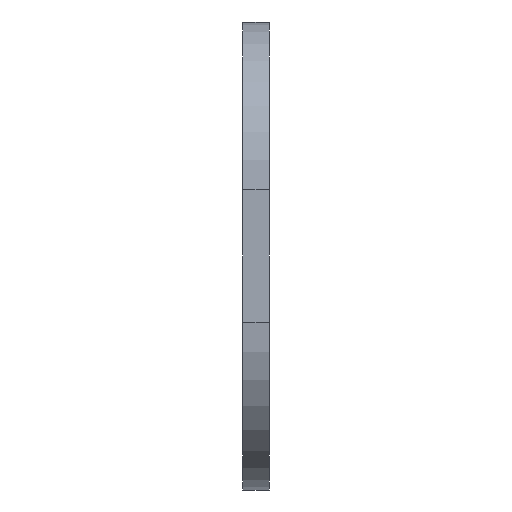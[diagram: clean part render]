
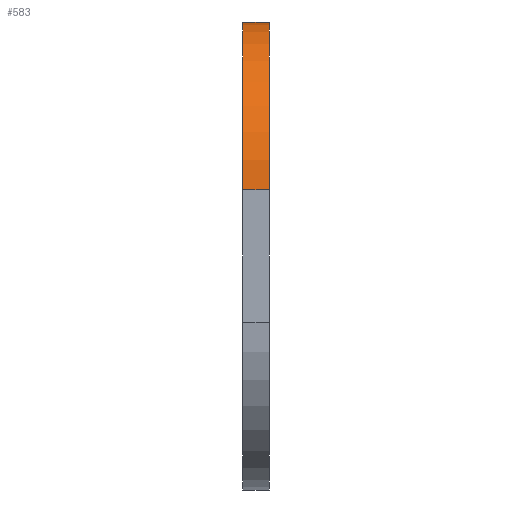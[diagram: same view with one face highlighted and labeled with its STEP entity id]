
A CAD part, front view. The second image highlights one B-rep face of the part: STEP entity #583.
In plain terms, the highlighted cylindrical face has radius 6.3 mm (diameter 12.6 mm), a partial arc.
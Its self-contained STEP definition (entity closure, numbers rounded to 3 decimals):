
#22 = VERTEX_POINT('',#23);
#23 = CARTESIAN_POINT('',(-44.,-20.8,8.8));
#32 = PLANE('',#33);
#33 = AXIS2_PLACEMENT_3D('',#34,#35,#36);
#34 = CARTESIAN_POINT('',(-43.,-27.1,8.8));
#35 = DIRECTION('',(0.,-0.,-1.));
#36 = DIRECTION('',(1.,0.,0.));
#44 = PLANE('',#45);
#45 = AXIS2_PLACEMENT_3D('',#46,#47,#48);
#46 = CARTESIAN_POINT('',(-44.,-27.1,8.8));
#47 = DIRECTION('',(-1.,0.,0.));
#48 = DIRECTION('',(0.,0.,1.));
#56 = EDGE_CURVE('',#57,#22,#59,.T.);
#57 = VERTEX_POINT('',#58);
#58 = CARTESIAN_POINT('',(-43.,-20.8,8.8));
#59 = SURFACE_CURVE('',#60,(#64,#71),.PCURVE_S1.);
#60 = LINE('',#61,#62);
#61 = CARTESIAN_POINT('',(-43.,-20.8,8.8));
#62 = VECTOR('',#63,1.);
#63 = DIRECTION('',(-1.,-0.,0.));
#64 = PCURVE('',#32,#65);
#65 = DEFINITIONAL_REPRESENTATION('',(#66),#70);
#66 = LINE('',#67,#68);
#67 = CARTESIAN_POINT('',(-0.,-6.3));
#68 = VECTOR('',#69,1.);
#69 = DIRECTION('',(-1.,0.));
#70 = ( GEOMETRIC_REPRESENTATION_CONTEXT(2) 
PARAMETRIC_REPRESENTATION_CONTEXT() REPRESENTATION_CONTEXT('2D SPACE',''
  ) );
#71 = PCURVE('',#72,#77);
#72 = CYLINDRICAL_SURFACE('',#73,6.3);
#73 = AXIS2_PLACEMENT_3D('',#74,#75,#76);
#74 = CARTESIAN_POINT('',(-43.,-20.8,2.5));
#75 = DIRECTION('',(-1.,-0.,0.));
#76 = DIRECTION('',(0.,-0.,1.));
#77 = DEFINITIONAL_REPRESENTATION('',(#78),#82);
#78 = LINE('',#79,#80);
#79 = CARTESIAN_POINT('',(-0.,0.));
#80 = VECTOR('',#81,1.);
#81 = DIRECTION('',(-0.,1.));
#82 = ( GEOMETRIC_REPRESENTATION_CONTEXT(2) 
PARAMETRIC_REPRESENTATION_CONTEXT() REPRESENTATION_CONTEXT('2D SPACE',''
  ) );
#100 = PLANE('',#101);
#101 = AXIS2_PLACEMENT_3D('',#102,#103,#104);
#102 = CARTESIAN_POINT('',(-43.,-27.1,8.8));
#103 = DIRECTION('',(-1.,0.,0.));
#104 = DIRECTION('',(0.,0.,1.));
#142 = EDGE_CURVE('',#22,#143,#145,.T.);
#143 = VERTEX_POINT('',#144);
#144 = CARTESIAN_POINT('',(-44.,-27.1,2.5));
#145 = SURFACE_CURVE('',#146,(#151,#162),.PCURVE_S1.);
#146 = CIRCLE('',#147,6.3);
#147 = AXIS2_PLACEMENT_3D('',#148,#149,#150);
#148 = CARTESIAN_POINT('',(-44.,-20.8,2.5));
#149 = DIRECTION('',(1.,0.,0.));
#150 = DIRECTION('',(-0.,-1.,-0.));
#151 = PCURVE('',#44,#152);
#152 = DEFINITIONAL_REPRESENTATION('',(#153),#161);
#153 = ( BOUNDED_CURVE() B_SPLINE_CURVE(2,(#154,#155,#156,#157,#158,#159
,#160),.UNSPECIFIED.,.T.,.F.) B_SPLINE_CURVE_WITH_KNOTS((1,2,2,2,2,1),(
    -2.094,0.,2.094,4.189,6.283,
8.378),.UNSPECIFIED.) CURVE() GEOMETRIC_REPRESENTATION_ITEM() 
RATIONAL_B_SPLINE_CURVE((1.,0.5,1.,0.5,1.,0.5,1.)) REPRESENTATION_ITEM(
  '') );
#154 = CARTESIAN_POINT('',(-6.3,0.));
#155 = CARTESIAN_POINT('',(-17.212,0.));
#156 = CARTESIAN_POINT('',(-11.756,9.45));
#157 = CARTESIAN_POINT('',(-6.3,18.9));
#158 = CARTESIAN_POINT('',(-0.844,9.45));
#159 = CARTESIAN_POINT('',(4.612,0.));
#160 = CARTESIAN_POINT('',(-6.3,0.));
#161 = ( GEOMETRIC_REPRESENTATION_CONTEXT(2) 
PARAMETRIC_REPRESENTATION_CONTEXT() REPRESENTATION_CONTEXT('2D SPACE',''
  ) );
#162 = PCURVE('',#72,#163);
#163 = DEFINITIONAL_REPRESENTATION('',(#164),#168);
#164 = LINE('',#165,#166);
#165 = CARTESIAN_POINT('',(4.712,1.));
#166 = VECTOR('',#167,1.);
#167 = DIRECTION('',(-1.,0.));
#168 = ( GEOMETRIC_REPRESENTATION_CONTEXT(2) 
PARAMETRIC_REPRESENTATION_CONTEXT() REPRESENTATION_CONTEXT('2D SPACE',''
  ) );
#186 = PLANE('',#187);
#187 = AXIS2_PLACEMENT_3D('',#188,#189,#190);
#188 = CARTESIAN_POINT('',(-43.,-27.1,8.8));
#189 = DIRECTION('',(0.,1.,0.));
#190 = DIRECTION('',(1.,0.,0.));
#583 = ADVANCED_FACE('',(#584),#72,.T.);
#584 = FACE_BOUND('',#585,.F.);
#585 = EDGE_LOOP('',(#586,#614,#635,#636));
#586 = ORIENTED_EDGE('',*,*,#587,.T.);
#587 = EDGE_CURVE('',#57,#588,#590,.T.);
#588 = VERTEX_POINT('',#589);
#589 = CARTESIAN_POINT('',(-43.,-27.1,2.5));
#590 = SURFACE_CURVE('',#591,(#596,#603),.PCURVE_S1.);
#591 = CIRCLE('',#592,6.3);
#592 = AXIS2_PLACEMENT_3D('',#593,#594,#595);
#593 = CARTESIAN_POINT('',(-43.,-20.8,2.5));
#594 = DIRECTION('',(1.,0.,0.));
#595 = DIRECTION('',(-0.,-1.,-0.));
#596 = PCURVE('',#72,#597);
#597 = DEFINITIONAL_REPRESENTATION('',(#598),#602);
#598 = LINE('',#599,#600);
#599 = CARTESIAN_POINT('',(4.712,-0.));
#600 = VECTOR('',#601,1.);
#601 = DIRECTION('',(-1.,0.));
#602 = ( GEOMETRIC_REPRESENTATION_CONTEXT(2) 
PARAMETRIC_REPRESENTATION_CONTEXT() REPRESENTATION_CONTEXT('2D SPACE',''
  ) );
#603 = PCURVE('',#100,#604);
#604 = DEFINITIONAL_REPRESENTATION('',(#605),#613);
#605 = ( BOUNDED_CURVE() B_SPLINE_CURVE(2,(#606,#607,#608,#609,#610,#611
,#612),.UNSPECIFIED.,.T.,.F.) B_SPLINE_CURVE_WITH_KNOTS((1,2,2,2,2,1),(
    -2.094,0.,2.094,4.189,6.283,
8.378),.UNSPECIFIED.) CURVE() GEOMETRIC_REPRESENTATION_ITEM() 
RATIONAL_B_SPLINE_CURVE((1.,0.5,1.,0.5,1.,0.5,1.)) REPRESENTATION_ITEM(
  '') );
#606 = CARTESIAN_POINT('',(-6.3,0.));
#607 = CARTESIAN_POINT('',(-17.212,0.));
#608 = CARTESIAN_POINT('',(-11.756,9.45));
#609 = CARTESIAN_POINT('',(-6.3,18.9));
#610 = CARTESIAN_POINT('',(-0.844,9.45));
#611 = CARTESIAN_POINT('',(4.612,0.));
#612 = CARTESIAN_POINT('',(-6.3,0.));
#613 = ( GEOMETRIC_REPRESENTATION_CONTEXT(2) 
PARAMETRIC_REPRESENTATION_CONTEXT() REPRESENTATION_CONTEXT('2D SPACE',''
  ) );
#614 = ORIENTED_EDGE('',*,*,#615,.T.);
#615 = EDGE_CURVE('',#588,#143,#616,.T.);
#616 = SURFACE_CURVE('',#617,(#621,#628),.PCURVE_S1.);
#617 = LINE('',#618,#619);
#618 = CARTESIAN_POINT('',(-43.,-27.1,2.5));
#619 = VECTOR('',#620,1.);
#620 = DIRECTION('',(-1.,-0.,0.));
#621 = PCURVE('',#72,#622);
#622 = DEFINITIONAL_REPRESENTATION('',(#623),#627);
#623 = LINE('',#624,#625);
#624 = CARTESIAN_POINT('',(-1.571,0.));
#625 = VECTOR('',#626,1.);
#626 = DIRECTION('',(-0.,1.));
#627 = ( GEOMETRIC_REPRESENTATION_CONTEXT(2) 
PARAMETRIC_REPRESENTATION_CONTEXT() REPRESENTATION_CONTEXT('2D SPACE',''
  ) );
#628 = PCURVE('',#186,#629);
#629 = DEFINITIONAL_REPRESENTATION('',(#630),#634);
#630 = LINE('',#631,#632);
#631 = CARTESIAN_POINT('',(0.,6.3));
#632 = VECTOR('',#633,1.);
#633 = DIRECTION('',(-1.,0.));
#634 = ( GEOMETRIC_REPRESENTATION_CONTEXT(2) 
PARAMETRIC_REPRESENTATION_CONTEXT() REPRESENTATION_CONTEXT('2D SPACE',''
  ) );
#635 = ORIENTED_EDGE('',*,*,#142,.F.);
#636 = ORIENTED_EDGE('',*,*,#56,.F.);
